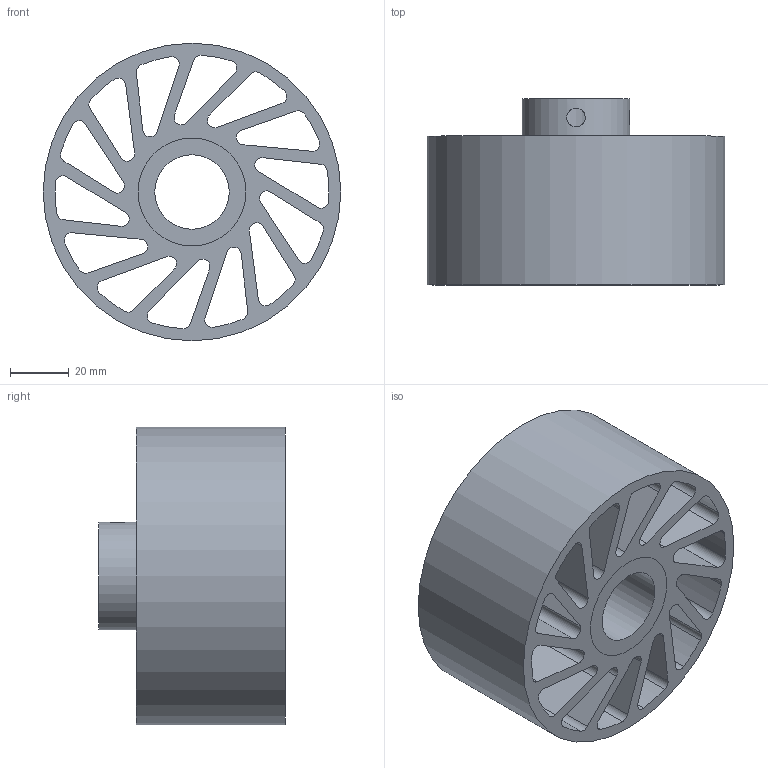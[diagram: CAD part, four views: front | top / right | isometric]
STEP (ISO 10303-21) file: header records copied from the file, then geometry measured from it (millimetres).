
FILE_DESCRIPTION(/* description */ (''),/* implementation_level */ '2;1');
FILE_NAME(/* name */ 'NCW-430-XXX-YYY.stp',/* time_stamp */ '2023-02-02T15:09:55-06:00',/* author */ ('AG'),/* organization */ ('Meridian Laboratory'),/* preprocessor_version */ 'ST-DEVELOPER v18.1',/* originating_system */ 'Autodesk Inventor 2022',/* authorisation */ '');
FILE_SCHEMA (('AUTOMOTIVE_DESIGN { 1 0 10303 214 3 1 1 }'));
Length unit declared in the file: inch
Products named in the file (1): NCW-340
Bounding box: 101.6 x 63.5 x 101.6 mm (x, y, z)
Volume: 211860.5 mm3; surface area: 91892.9 mm2
Topology: 2 solids, 2 shells, 94 faces, 276 edges, 186 vertices
Faces by surface type: cylinder 62, plane 32
Full cylindrical faces by diameter (mm): 6.35 x2, 25.425 x1, 36.83 x2, 101.6 x1
Entity records: 3530 total; most frequent: CARTESIAN_POINT 697, DIRECTION 576, ORIENTED_EDGE 552, EDGE_CURVE 276, AXIS2_PLACEMENT_3D 215, VERTEX_POINT 186, LINE 146, VECTOR 146
